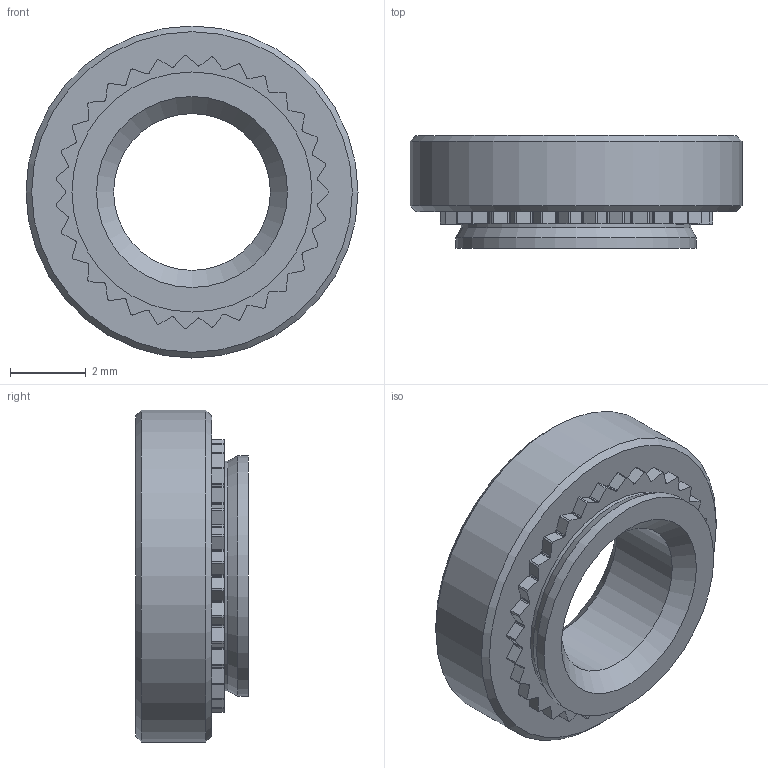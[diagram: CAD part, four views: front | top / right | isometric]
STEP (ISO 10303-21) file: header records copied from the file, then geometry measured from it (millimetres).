
FILE_DESCRIPTION(/* description */ (''),/* implementation_level */ '2;1');
FILE_NAME(/* name */ 'C:\Users\keval.kumar\Desktop\Fastit\Clinch nut\M5\Clinch Nut_M5_1.stp',/* time_stamp */ '2024-03-14T09:38:17+05:00',/* author */ ('keval.kumar'),/* organization */ (''),/* preprocessor_version */ 'ST-DEVELOPER v18.1',/* originating_system */ 'Autodesk Inventor 2022',/* authorisation */ '');
FILE_SCHEMA (('AUTOMOTIVE_DESIGN { 1 0 10303 214 3 1 1 }'));
Length unit declared in the file: millimetre
Products named in the file (1): Clinch Nut_M5_1
Bounding box: 8.75 x 2.97 x 8.75 mm (x, y, z)
Volume: 108.9 mm3; surface area: 201 mm2
Topology: 1 solids, 1 shells, 199 faces, 582 edges, 387 vertices
Faces by surface type: cylinder 128, plane 66, cone 5
Full cylindrical faces by diameter (mm): 4.134 x1, 6.05 x1, 6.33 x1, 8.75 x1
Entity records: 6762 total; most frequent: DIRECTION 1245, CARTESIAN_POINT 1169, ORIENTED_EDGE 1164, EDGE_CURVE 582, AXIS2_PLACEMENT_3D 463, VERTEX_POINT 387, LINE 319, VECTOR 319
